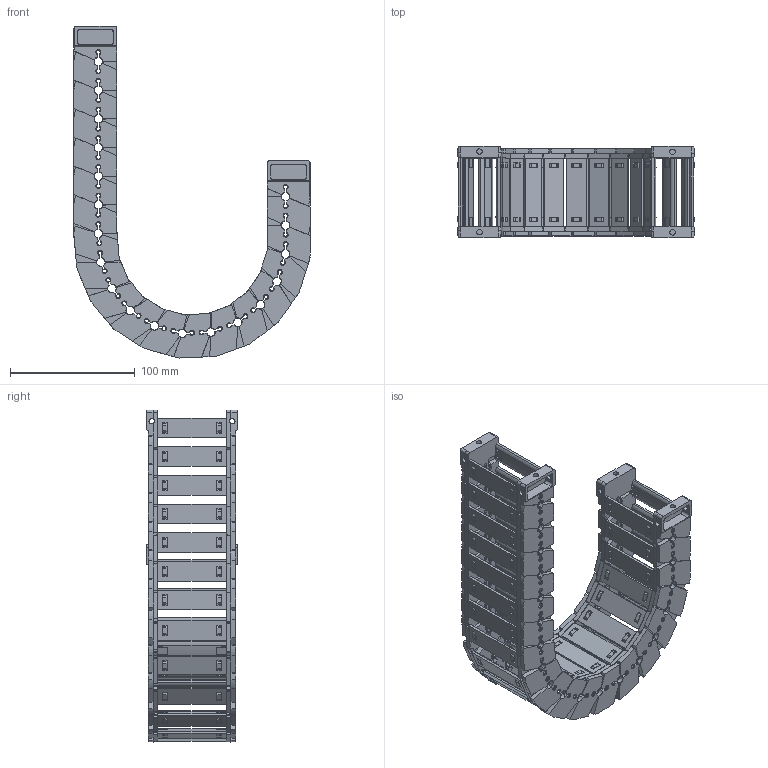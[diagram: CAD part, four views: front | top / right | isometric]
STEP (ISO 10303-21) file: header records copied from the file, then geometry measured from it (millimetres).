
FILE_DESCRIPTION((''),'2;1');
FILE_NAME('JY-28X55-R75_ASM','2026-03-26T08:43:56',('admin'),(''),'CREO PARAMETRIC BY PTC INC, 2021023','CREO PARAMETRIC BY PTC INC, 2021023','');
FILE_SCHEMA(('CONFIG_CONTROL_DESIGN'));
Length unit declared in the file: millimetre
Products named in the file (11): 28XL-L; 25-35XL-YP; 28XL-R; ASM0001_ASM; 28-LTT-A-L; 28-LTT-A-R; 28XL-LTT-A_ASM; 28-LTT-B-L; 28-LTT-B-R; 28XL-LTT-B_ASM; JY-28X55-R75_ASM
Assembly tree (32 placements, depth 3):
  JY-28X55-R75_ASM
    ASM0001_ASM  x18
      28XL-L
      25-35XL-YP
      28XL-R
    28XL-LTT-A_ASM
      28-LTT-A-L
      25-35XL-YP  x2
      28-LTT-A-R
    28XL-LTT-B_ASM
      28-LTT-B-L
      25-35XL-YP  x2
      28-LTT-B-R
Bounding box: 189.55 x 73.5 x 266.34 mm (x, y, z)
Volume: 313202 mm3; surface area: 228015.7 mm2
Topology: 80 solids, 80 shells, 6470 faces, 19228 edges, 12838 vertices
Faces by surface type: plane 4242, cone 1156, cylinder 934, bspline 138
Entity records: 29095 total; most frequent: CARTESIAN_POINT 9490, ORIENTED_EDGE 4352, DIRECTION 3655, EDGE_CURVE 2176, VERTEX_POINT 1454, VECTOR 1365, LINE 1365, AXIS2_PLACEMENT_3D 1145
